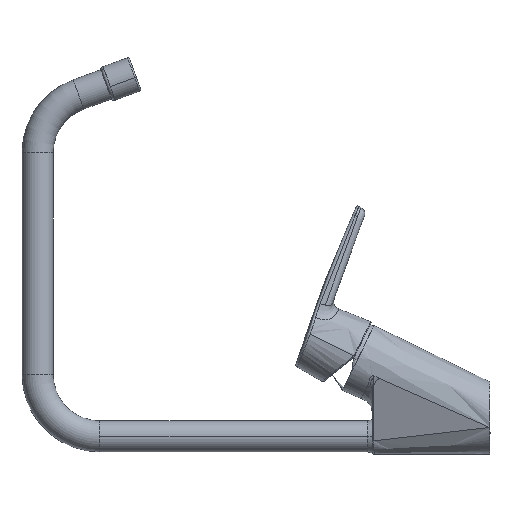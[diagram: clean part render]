
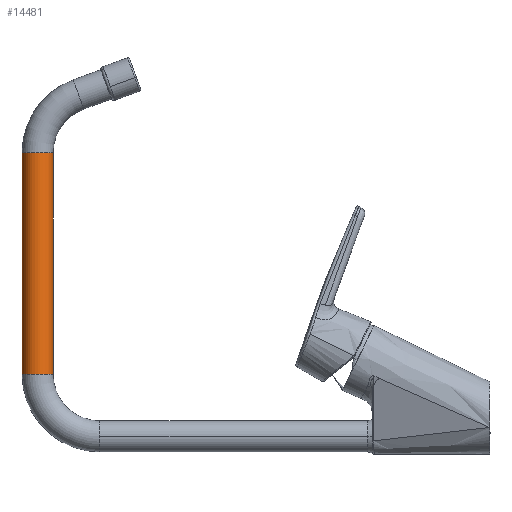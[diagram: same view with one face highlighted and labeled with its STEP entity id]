
A CAD part, left-side view. The second image highlights one B-rep face of the part: STEP entity #14481.
In plain terms, the highlighted cylindrical face has radius 10 mm (diameter 20 mm), a partial arc.
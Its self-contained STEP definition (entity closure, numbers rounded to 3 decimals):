
#296 = DIRECTION ( 'NONE',  ( 0., 1., 0. ) ) ;
#1070 = DIRECTION ( 'NONE',  ( 0., 1., 0. ) ) ;
#2707 = EDGE_CURVE ( 'NONE', #12522, #13283, #17658, .T. ) ;
#3211 = CARTESIAN_POINT ( 'NONE',  ( 192.41, 702.671, 638.149 ) ) ;
#3465 = DIRECTION ( 'NONE',  ( 0., 0., -1. ) ) ;
#4247 = DIRECTION ( 'NONE',  ( 0., 0., -1. ) ) ;
#5278 = CYLINDRICAL_SURFACE ( 'NONE', #15574, 10. ) ;
#6999 = AXIS2_PLACEMENT_3D ( 'NONE', #3211, #11230, #296 ) ;
#7620 = CARTESIAN_POINT ( 'NONE',  ( 192.41, 692.671, 495.996 ) ) ;
#9304 = ORIENTED_EDGE ( 'NONE', *, *, #18185, .F. ) ;
#9368 = EDGE_LOOP ( 'NONE', ( #16444, #15520, #10311, #9304 ) ) ;
#9489 = LINE ( 'NONE', #16072, #10747 ) ;
#9766 = VECTOR ( 'NONE', #3465, 1000. ) ;
#10021 = DIRECTION ( 'NONE',  ( 0., 0., -1. ) ) ;
#10145 = VERTEX_POINT ( 'NONE', #16175 ) ;
#10311 = ORIENTED_EDGE ( 'NONE', *, *, #12219, .T. ) ;
#10454 = AXIS2_PLACEMENT_3D ( 'NONE', #20026, #13723, #18586 ) ;
#10747 = VECTOR ( 'NONE', #10021, 1000. ) ;
#11230 = DIRECTION ( 'NONE',  ( 0., 0., -1. ) ) ;
#11437 = EDGE_CURVE ( 'NONE', #12522, #10145, #17880, .T. ) ;
#11549 = CARTESIAN_POINT ( 'NONE',  ( 192.41, 692.671, 638.149 ) ) ;
#12219 = EDGE_CURVE ( 'NONE', #10145, #14225, #9489, .T. ) ;
#12522 = VERTEX_POINT ( 'NONE', #12708 ) ;
#12708 = CARTESIAN_POINT ( 'NONE',  ( 192.41, 692.671, 638.149 ) ) ;
#13283 = VERTEX_POINT ( 'NONE', #7620 ) ;
#13723 = DIRECTION ( 'NONE',  ( 0., 0., -1. ) ) ;
#14225 = VERTEX_POINT ( 'NONE', #16880 ) ;
#14481 = ADVANCED_FACE ( 'NONE', ( #18113 ), #5278, .T. ) ;
#15272 = CARTESIAN_POINT ( 'NONE',  ( 192.41, 702.671, 638.149 ) ) ;
#15520 = ORIENTED_EDGE ( 'NONE', *, *, #11437, .T. ) ;
#15574 = AXIS2_PLACEMENT_3D ( 'NONE', #15272, #4247, #1070 ) ;
#16072 = CARTESIAN_POINT ( 'NONE',  ( 192.41, 712.671, 638.149 ) ) ;
#16175 = CARTESIAN_POINT ( 'NONE',  ( 192.41, 712.671, 638.149 ) ) ;
#16345 = CIRCLE ( 'NONE', #10454, 10. ) ;
#16444 = ORIENTED_EDGE ( 'NONE', *, *, #2707, .F. ) ;
#16880 = CARTESIAN_POINT ( 'NONE',  ( 192.41, 712.671, 495.996 ) ) ;
#17658 = LINE ( 'NONE', #11549, #9766 ) ;
#17880 = CIRCLE ( 'NONE', #6999, 10. ) ;
#18113 = FACE_OUTER_BOUND ( 'NONE', #9368, .T. ) ;
#18185 = EDGE_CURVE ( 'NONE', #13283, #14225, #16345, .T. ) ;
#18586 = DIRECTION ( 'NONE',  ( 0., 1., 0. ) ) ;
#20026 = CARTESIAN_POINT ( 'NONE',  ( 192.41, 702.671, 495.996 ) ) ;
